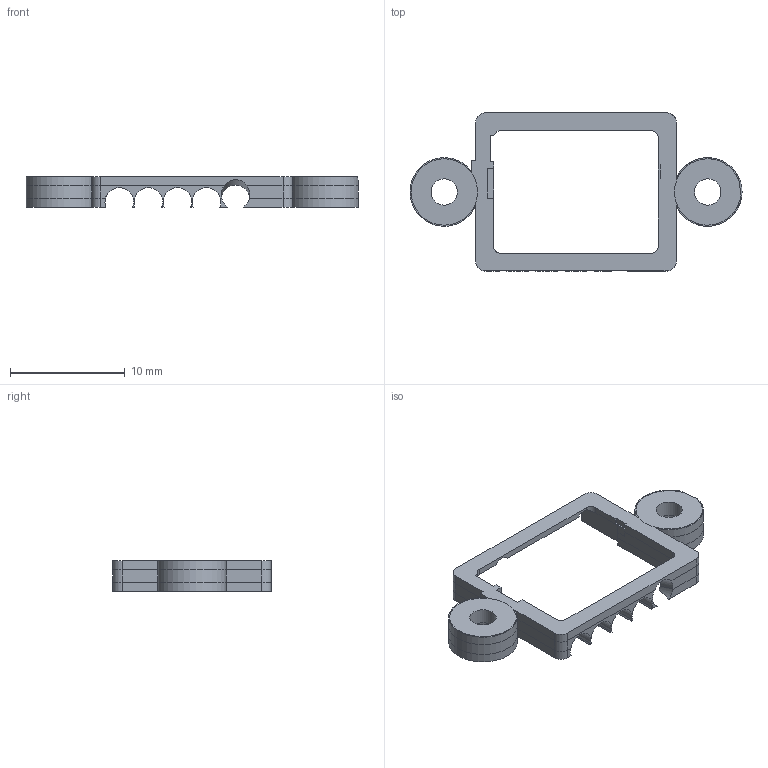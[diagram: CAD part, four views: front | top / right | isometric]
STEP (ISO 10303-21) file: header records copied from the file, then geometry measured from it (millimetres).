
FILE_DESCRIPTION(('Open CASCADE Model'),'2;1');
FILE_NAME('Open CASCADE Shape Model','2026-09-16T15:34:22',('Author'),( 'Open CASCADE'),'Open CASCADE STEP processor 7.7','Open CASCADE 7.7' ,'Unknown');
FILE_SCHEMA(('AUTOMOTIVE_DESIGN { 1 0 10303 214 1 1 1 1 }'));
Length unit declared in the file: millimetre
Products named in the file (1): COMPOUND
Bounding box: 28.99 x 13.8 x 2.65 mm (x, y, z)
Volume: 237.4 mm3; surface area: 618.1 mm2
Topology: 1 solids, 1 shells, 136 faces, 362 edges, 230 vertices
Faces by surface type: plane 80, cylinder 49, torus 7
Full cylindrical faces by diameter (mm): 2.3 x2, 4.4 x4
Entity records: 10776 total; most frequent: CARTESIAN_POINT 3705, DIRECTION 1279, ORIENTED_EDGE 724, PCURVE 724, DEFINITIONAL_REPRESENTATION 724, LINE 684, VECTOR 684, EDGE_CURVE 362
